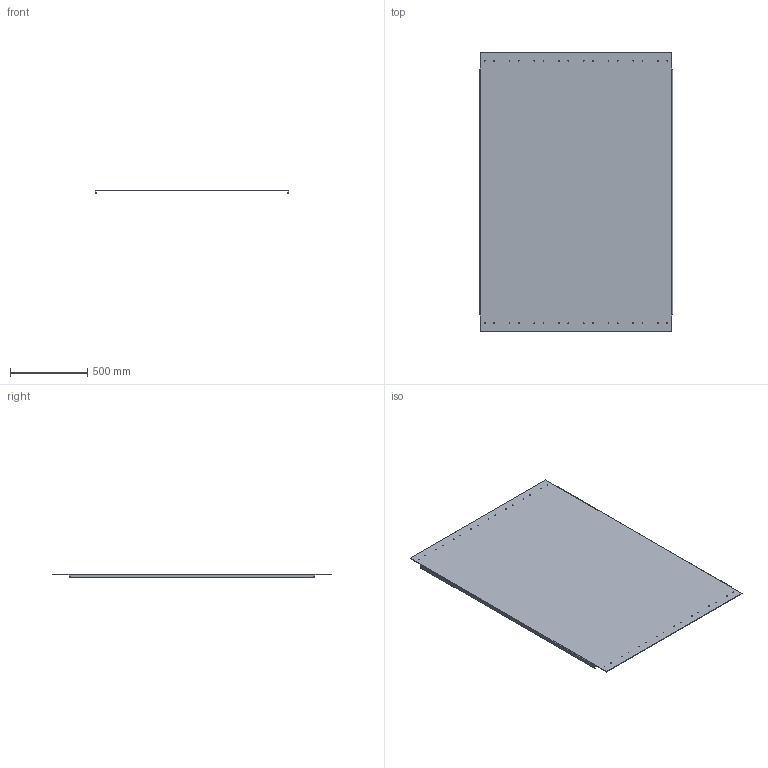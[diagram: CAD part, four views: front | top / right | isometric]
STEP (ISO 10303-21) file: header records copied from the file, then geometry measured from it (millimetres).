
FILE_DESCRIPTION(('HOOPS Exchange Step'),'2;1');
FILE_NAME('/private/var/mobile/Containers/Data/Application/E4481369-A8C6-45C6-A958-B1853E49479D/tmp/export/temp_export','2021-04-12T21:18:01+00:00',('mobile'),('Shapr3D Limited'),'HOOPS Exchange 2020.2','Shapr3D','Authorized');
FILE_SCHEMA( ('AP203_CONFIGURATION_CONTROLLED_3D_DESIGN_OF_MECHANICAL_PARTS_AND_ASSEMBLIES_MIM_LF') );
Length unit declared in the file: millimetre
Products named in the file (2): 0; /private/var/mobile/Containers/Data/Application/E4481369-A8C6-45C6-A958-B1853E49479D/tmp/7405E877-607B-425C-BC22-1B72995F4C70.tmp
Assembly tree (1 placements, depth 2):
  /private/var/mobile/Containers/Data/Application/E4481369-A8C6-45C6-A958-B1853E49479D/tmp/7405E877-607B-425C-BC22-1B72995F4C70.tmp
    0
Bounding box: 1250 x 1800 x 24 mm (x, y, z)
Volume: 9226936 mm3; surface area: 4640506.1 mm2
Topology: 1 solids, 1 shells, 66 faces, 224 edges, 160 vertices
Faces by surface type: cylinder 48, plane 18
Full cylindrical faces by diameter (mm): 5.2 x36
Entity records: 2751 total; most frequent: DIRECTION 498, CARTESIAN_POINT 453, ORIENTED_EDGE 448, EDGE_CURVE 224, AXIS2_PLACEMENT_3D 205, VERTEX_POINT 160, EDGE_LOOP 138, FACE_BOUND 138
